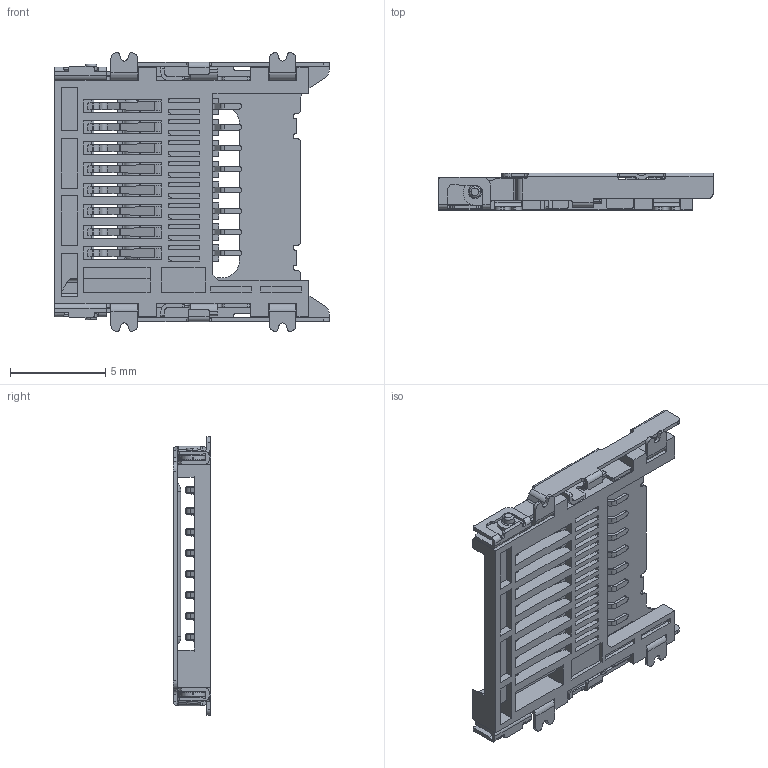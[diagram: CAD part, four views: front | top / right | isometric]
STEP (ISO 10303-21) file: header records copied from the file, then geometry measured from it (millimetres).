
FILE_DESCRIPTION (( 'STEP AP214' ), '1' );
FILE_NAME ('User Library-112C-TXAR-R02_C_1.STEP', '2019-11-27T17:20:44', ( '' ), ( '' ), 'SwSTEP 2.0', 'SolidWorks 2019', '' );
FILE_SCHEMA (( 'AUTOMOTIVE_DESIGN' ));
Length unit declared in the file: millimetre
Products named in the file (13): 401-1; 301_2-1; 301-1; User Library-112C-TXAR-R02_C_1; 402_L-F-1; 301_6-1; 301_5-1; 301_3-1; 402_R-F-1; 201-1; 301_7-1; 301_1-1; 301_4-1
Assembly tree (12 placements, depth 2):
  User Library-112C-TXAR-R02_C_1
    201-1
    301-1
    301_1-1
    301_2-1
    301_3-1
    301_4-1
    301_5-1
    301_6-1
    301_7-1
    401-1
    402_L-F-1
    402_R-F-1
Bounding box: 14.4 x 1.96 x 14.6 mm (x, y, z)
Volume: 122.3 mm3; surface area: 937 mm2
Topology: 12 solids, 12 shells, 1488 faces, 3928 edges, 2482 vertices
Faces by surface type: plane 939, cylinder 392, cone 70, bspline 69, torus 18
Entity records: 51660 total; most frequent: CARTESIAN_POINT 12389, ORIENTED_EDGE 7856, DIRECTION 6954, EDGE_CURVE 3928, LINE 2782, VECTOR 2782, VERTEX_POINT 2482, AXIS2_PLACEMENT_3D 2086
